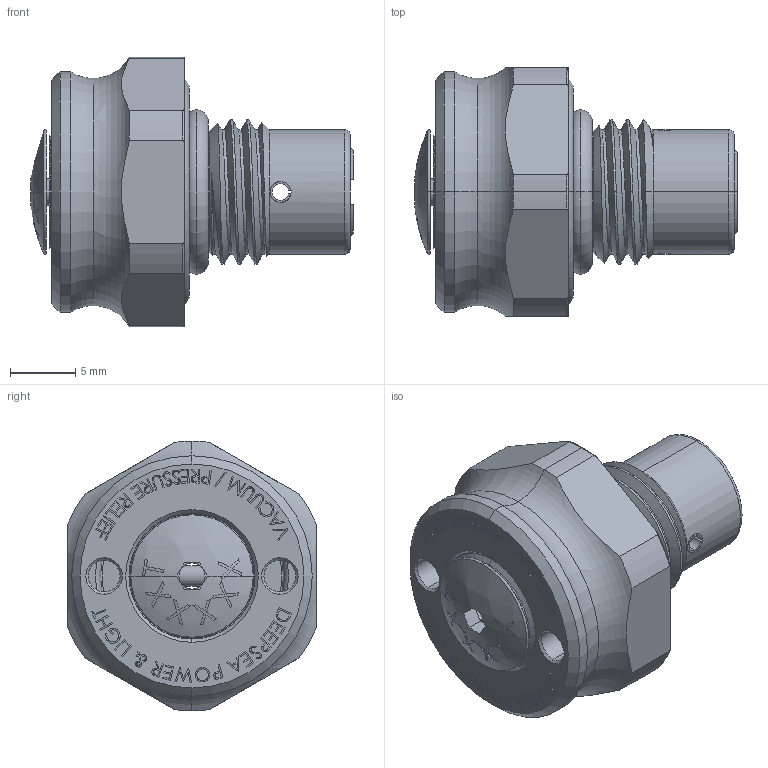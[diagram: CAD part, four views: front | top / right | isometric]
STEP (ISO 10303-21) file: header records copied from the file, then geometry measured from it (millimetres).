
FILE_DESCRIPTION (( 'STEP AP214' ), '1' );
FILE_NAME ('PRV-DualSeal-0A-C-20140708a.STEP', '2014-07-08T20:48:05', ( '' ), ( '' ), 'SwSTEP 2.0', 'SolidWorks 2014', '' );
FILE_SCHEMA (( 'AUTOMOTIVE_DESIGN' ));
Length unit declared in the file: inch
Products named in the file (1): PRV-DualSeal-0A-C-20140708a
Bounding box: 24.69 x 19.05 x 20.64 mm (x, y, z)
Surface area: 3055.1 mm2 (no closed solid volume)
Topology: 0 solids, 10 shells, 547 faces, 1975 edges, 1354 vertices
Faces by surface type: plane 329, bspline 105, cylinder 49, torus 33, cone 22, sphere 9
Entity records: 36589 total; most frequent: CARTESIAN_POINT 13860, ORIENTED_EDGE 3202, DIRECTION 2754, EDGE_CURVE 1975, VERTEX_POINT 1354, VECTOR 1230, LINE 1230, AXIS2_PLACEMENT_3D 762
